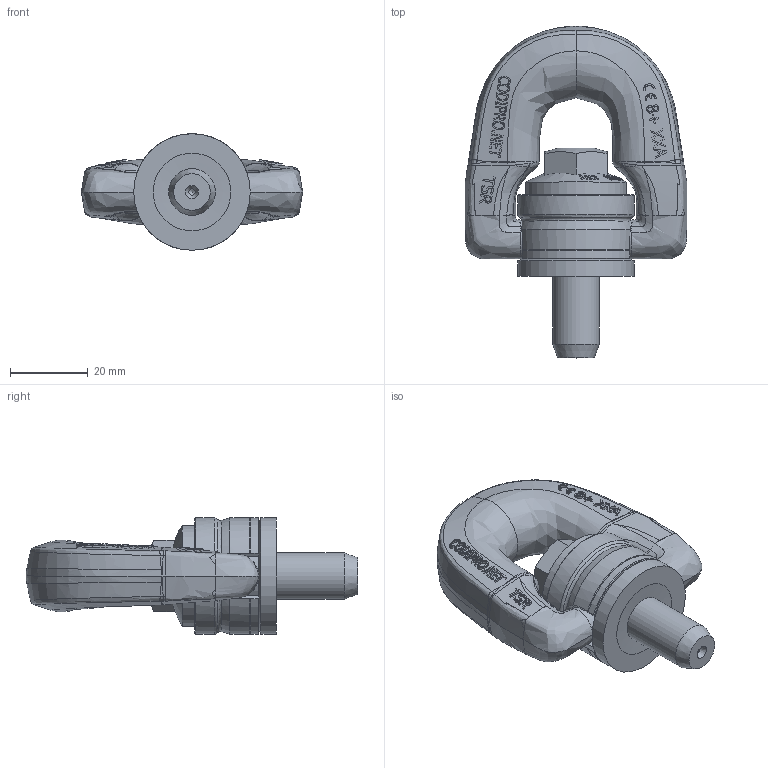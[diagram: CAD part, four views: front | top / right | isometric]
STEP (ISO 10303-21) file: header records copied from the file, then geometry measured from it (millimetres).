
FILE_DESCRIPTION(/* description */ (''),/* implementation_level */ '2;1');
FILE_NAME(/* name */ 'W:\CODIPRO\DOCUMENTS\Plans A NE PAS DIFFUSER !!!\Inventor\Standard Inventor\Produit Fini Inventor\DSP\Fichiers 3D\DSP M12.stp',/* time_stamp */ '2017-10-06T08:44:40+02:00',/* author */ ('rklenes'),/* organization */ (''),/* preprocessor_version */ 'ST-DEVELOPER v16.5',/* originating_system */ 'Autodesk Inventor 2017',/* authorisation */ '');
FILE_SCHEMA (('AUTOMOTIVE_DESIGN { 1 0 10303 214 3 1 1 }'));
Products named in the file (5): DSP M12; TSM_AO1C; DRB_B1B; DRA_M12X42; DRE_D1M12A
Assembly tree (4 placements, depth 2):
  DSP M12
    TSM_AO1C
    DRB_B1B
    DRA_M12X42
    DRE_D1M12A
Bounding box: 57.01 x 85.5 x 30 mm (x, y, z)
Volume: 45377.2 mm3; surface area: 17259.6 mm2
Topology: 4 solids, 4 shells, 667 faces, 1762 edges, 1103 vertices
Faces by surface type: bspline 333, plane 262, cone 32, cylinder 28, torus 11, sphere 1
Full cylindrical faces by diameter (mm): 1.6 x1, 10 x2, 12 x3, 12.2 x1, 14.7 x2, 15 x2, 22 x1, 26 x1, 30 x2
Entity records: 42216 total; most frequent: CARTESIAN_POINT 28120, ORIENTED_EDGE 3366, DIRECTION 2016, EDGE_CURVE 1683, VERTEX_POINT 1098, EDGE_LOOP 745, AXIS2_PLACEMENT_3D 734, B_SPLINE_CURVE_WITH_KNOTS 678
